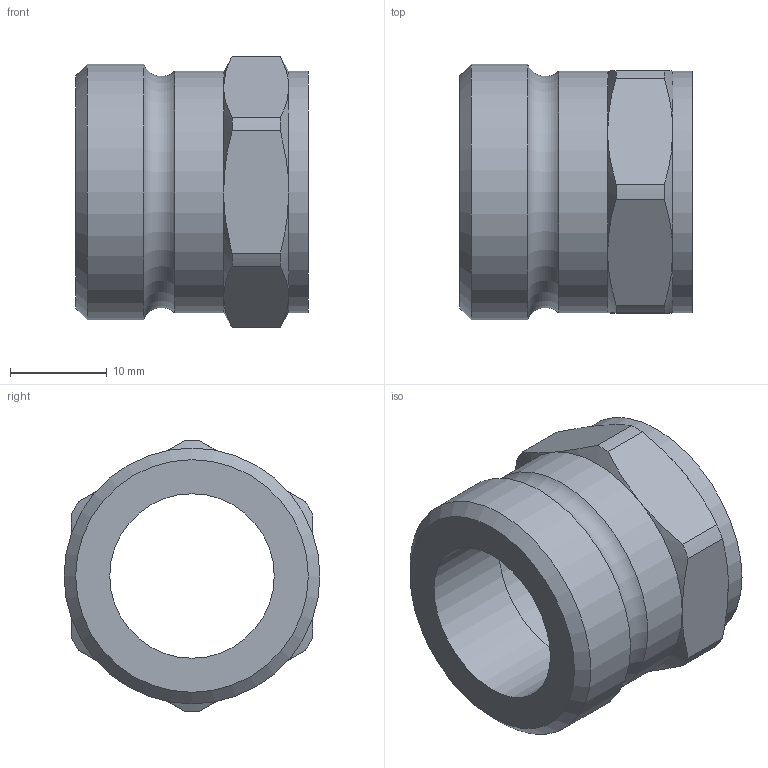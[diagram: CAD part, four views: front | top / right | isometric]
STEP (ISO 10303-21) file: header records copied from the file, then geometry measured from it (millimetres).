
FILE_DESCRIPTION(/* description */ (''),/* implementation_level */ '2;1');
FILE_NAME(/* name */ '\\LG50011\SANHA_Legnica\Engineering\Public\RYSUNKI\SANHA POLSKA\4370G\inventor\14370g_12-34B(3).stp',/* time_stamp */ '2018-11-13T10:58:53+01:00',/* author */ ('gomulka'),/* organization */ (''),/* preprocessor_version */ 'ST-DEVELOPER v16.13',/* originating_system */ 'Autodesk Inventor 2018',/* authorisation */ '');
FILE_SCHEMA (('AUTOMOTIVE_DESIGN { 1 0 10303 214 3 1 1 }'));
Length unit declared in the file: millimetre
Products named in the file (1): 14370g_12-34B(3)
Bounding box: 24 x 26.44 x 28 mm (x, y, z)
Volume: 6204.6 mm3; surface area: 3902.1 mm2
Topology: 1 solids, 1 shells, 35 faces, 78 edges, 46 vertices
Faces by surface type: cone 14, cylinder 11, plane 9, torus 1
Full cylindrical faces by diameter (mm): 17 x1, 18.63 x1, 25 x2, 26.441 x1
Entity records: 941 total; most frequent: CARTESIAN_POINT 200, DIRECTION 152, ORIENTED_EDGE 140, EDGE_CURVE 70, AXIS2_PLACEMENT_3D 70, EDGE_LOOP 46, VERTEX_POINT 46, FACE_OUTER_BOUND 35
